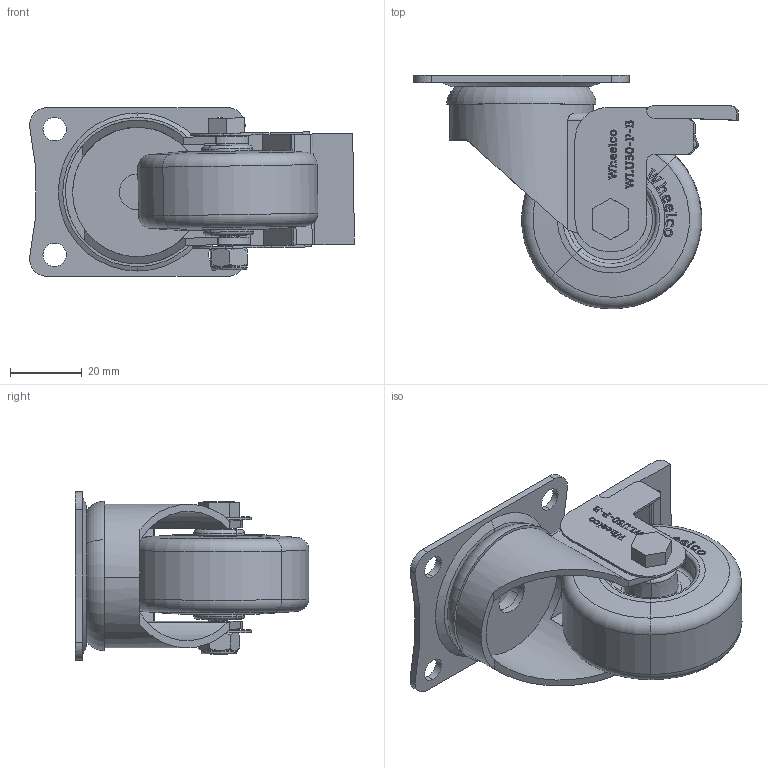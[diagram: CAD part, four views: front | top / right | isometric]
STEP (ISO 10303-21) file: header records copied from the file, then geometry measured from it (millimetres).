
FILE_DESCRIPTION (( 'STEP AP214' ), '1' );
FILE_NAME ('WLU50-P-B.step', '2024-01-15T01:51:44', ( '' ), ( '' ), 'SwSTEP 2.0', 'SolidWorks 2022', '' );
FILE_SCHEMA (( 'AUTOMOTIVE_DESIGN' ));
Length unit declared in the file: millimetre
Products named in the file (8): WL50-H-B; WLU50; M6 NUT; BREAK BRACKET H-B; WLU50-P-B; 41.5 CAP; M6X35; 60X47
Assembly tree (7 placements, depth 2):
  WLU50-P-B
    WL50-H-B
    BREAK BRACKET H-B
    M6X35
    M6 NUT
    41.5 CAP
    60X47
    WLU50
Bounding box: 90.41 x 64.94 x 47 mm (x, y, z)
Volume: 64708.9 mm3; surface area: 35459.7 mm2
Topology: 8 solids, 8 shells, 898 faces, 2393 edges, 1568 vertices
Faces by surface type: plane 469, bspline 253, cylinder 106, torus 38, cone 32
Entity records: 43901 total; most frequent: CARTESIAN_POINT 22571, ORIENTED_EDGE 4786, DIRECTION 3243, EDGE_CURVE 2393, VERTEX_POINT 1568, LINE 1423, VECTOR 1423, EDGE_LOOP 979
